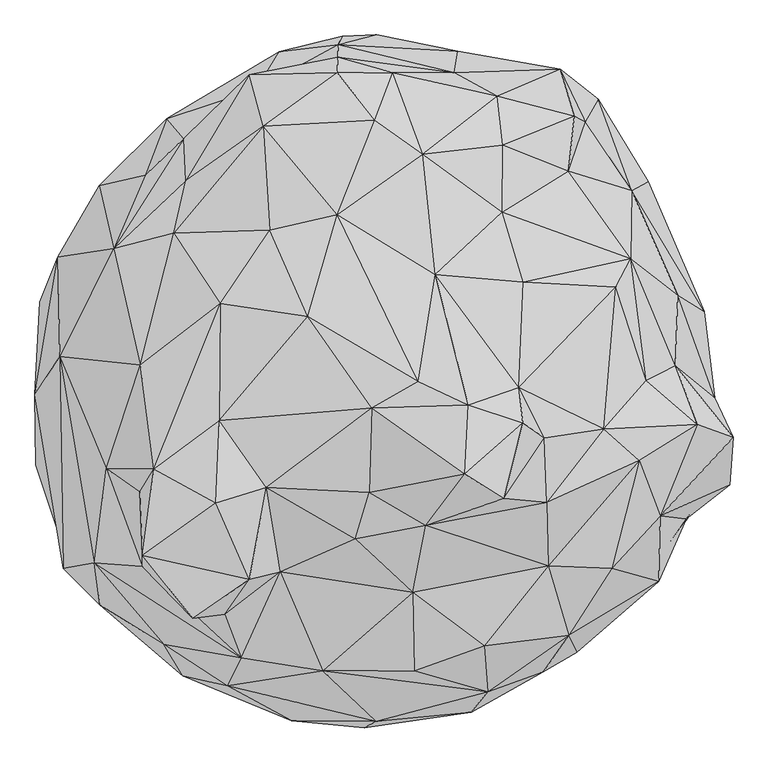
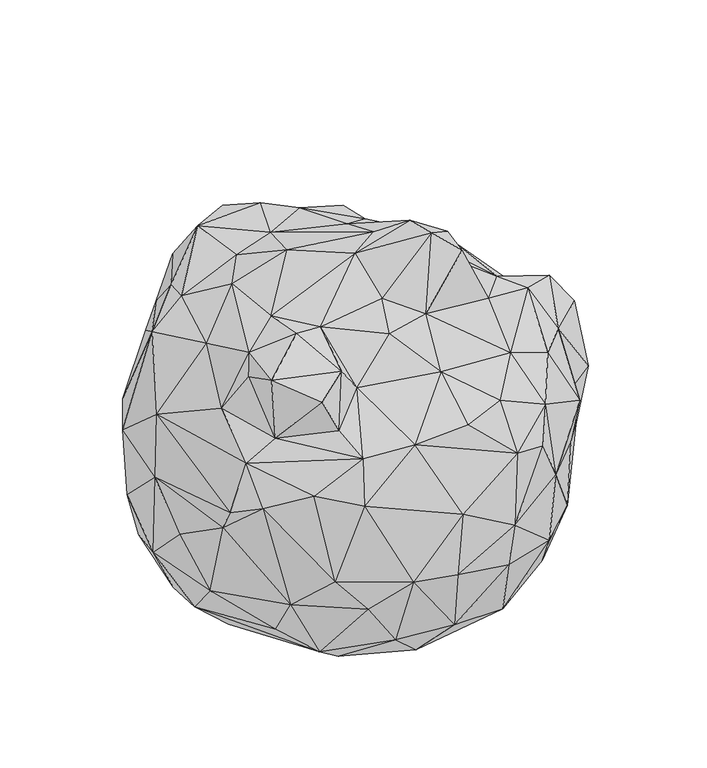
"""IFC4 building model written with IfcOpenShell, lengths in millimetres: geographic element geometry, Enscape AssetDefinition - Balm Bush : Enscape AssetDefinition - Balm Bush."""

from ifc_helpers import new_model, si_unit, origin, place, context, project, spatial, faceted_brep, source, transform, mapped, element, save


def geographic_element_0c4992a3(model_context):
    return source(origin(), model_context, "Body", "Brep", [
        faceted_brep([(-103.2708213, -28.0293748, 87.4930173), (344.7891772, -278.2743871, 87.4930173), (121.6873899, -550.0509143, 87.4930173), (312.7504289, -485.3526056, 87.4930173), (537.6026034, -111.360997, 122.5993857), (31.9034122, 85.9397277, 106.1995625), (483.1260741, 50.9389266, 117.1098575), (301.1055291, 161.4273489, 145.9610015), (-443.3142543, -218.7629938, 87.4930173), (-317.2000349, 6.4054755, 115.6498641), (-249.1122484, 226.8746197, 170.0659692), (94.6265161, 492.8733408, 281.8422019), (390.8439279, 296.7088819, 194.9024647), (518.7944174, 159.3808234, 184.8918945), (213.8534337, 460.0220025, 271.2863088), (425.7422388, 371.6726303, 251.8079579), (571.9012618, 134.5211118, 239.2979264), (542.7101851, 313.1485879, 468.670696), (379.9126446, 478.785485, 348.4884501), (445.0309277, 472.5328982, 451.1599839), (204.6146989, 556.6639304, 384.8151863), (510.0300908, 295.0474024, 639.8970485), (420.6644893, 429.313153, 672.0098257), (371.8031645, 530.8707952, 587.9698992), (650.9532332, 60.9223247, 488.0606234), (599.1232991, 92.9313004, 678.4057021), (508.5837245, 163.8322026, 850.7678509), (387.6252174, 333.4215879, 830.0852776), (398.8237381, 439.2881989, 790.2318835), (258.9309216, 253.3104122, 980.7052612), (260.5757713, 383.2080066, 949.7843385), (249.8932481, 478.099972, 884.2920661), (105.5608988, 366.3907349, 1005.6074858), (299.9075055, 118.1322485, 1021.5417147), (129.529193, 131.8538785, 1082.4985504), (47.3745875, 524.1814256, 883.228898), (12.6913656, 432.1153164, 1015.0117874), (-60.5219491, 248.3438998, 1047.7212667), (165.8966839, 524.0991116, 726.0334492), (-60.8999804, 523.4262943, 976.347208), (-59.549503, 553.7672043, 822.6758242), (-203.7955672, 420.4857647, 1017.4963474), (-230.6382805, 519.813776, 867.0647144), (-58.2677908, 578.6400437, 560.2571964), (-217.2929198, 491.6258454, 723.5295773), (173.101142, 566.0328269, 493.6592281), (15.6866908, 597.2068906, 333.124131), (-172.4721193, 564.8728609, 497.937113), (-50.7058874, 595.2501297, 355.7927608), (-390.5587792, 435.1478517, 548.4309793), (-357.5637639, 396.4434266, 820.2494979), (-343.9708948, 442.8346157, 317.6766038), (-372.1790016, 377.2239387, 247.8975356), (-237.534374, 397.4771798, 235.202238), (-479.7798395, 40.6567864, 115.3686419), (-473.3586311, 183.7875992, 165.3854996), (-502.1672845, 310.5277717, 338.2746279), (-566.3319826, 135.0266039, 225.5846113), (-637.4351978, 79.2079121, 425.8950949), (-601.8330455, 166.0981923, 590.0059342), (-521.4918852, 305.3177297, 587.0153904), (-540.3149724, -20.7758527, 124.5407835), (-645.5538869, -87.3326957, 326.2942135), (-485.3806496, -245.1593429, 111.8686944), (-579.3501139, -210.9759301, 185.881868), (-644.705832, -236.6477698, 479.1609049), (-646.4878321, -100.2570987, 598.8438129), (-594.2829251, -327.2557259, 317.9192841), (-464.2079473, -479.5174897, 227.9132307), (-352.8320491, -542.8832173, 148.7132013), (-455.3643167, -551.6501665, 355.2601039), (-271.4672089, -680.8964014, 353.6209464), (-170.5118865, -666.5790081, 202.0171285), (-285.6132984, -532.9383612, 102.6492417), (-591.2223458, -396.5682685, 580.4986358), (-521.1909413, -507.8048706, 690.6690598), (-591.9779539, -437.338084, 658.8361859), (-359.9068522, -645.4859972, 459.941864), (-148.5068798, -733.5099578, 437.9141033), (-396.7211545, -585.1808786, 738.4177446), (-273.3705044, -665.6394005, 709.523201), (-531.3819647, -427.161932, 807.2852492), (-598.5030532, -26.1186399, 759.1011524), (-508.1710815, -243.2810217, 880.5730343), (-438.2089078, -433.5936904, 865.5333519), (-246.6039956, -610.5666757, 833.7258697), (-88.9153406, -636.6765499, 844.8604345), (-170.9100604, -443.9971745, 956.7247629), (-278.5761952, -526.8044472, 893.348515), (15.429561, -733.9650393, 620.2399731), (231.3562334, -676.6399145, 726.3646126), (86.1066207, -484.4261408, 947.5157857), (88.954322, -636.2065077, 852.5073528), (224.4531512, -587.3548985, 861.1423969), (348.3548462, -432.8074157, 891.8932676), (111.0403612, -353.9148867, 1065.9604073), (-25.0923093, -380.2599907, 1058.245182), (387.8862858, -567.8147078, 777.7100205), (345.3665376, -310.0345433, 1011.2187862), (524.972558, -228.3504009, 935.6176853), (471.6629982, -437.2110367, 852.3084521), (339.2041624, -637.9516721, 691.8114424), (403.8853049, -599.8657942, 542.9646969), (562.8346205, -462.8386199, 667.9671407), (565.5180812, -335.6069624, 842.4683213), (543.7597036, -445.9197521, 519.1505551), (616.3422465, -341.9879079, 634.5546842), (636.9858384, -158.2563668, 898.1446028), (700.1382709, -275.8756578, 628.4427047), (706.8634629, -183.504194, 800.0890613), (632.6106191, -320.7831979, 469.7009921), (496.0250258, -506.0352087, 345.8895385), (597.0824957, -272.9684114, 188.5565519), (694.5405006, -162.4348462, 503.6548376), (666.3972139, -232.2055995, 314.5858049), (671.0886359, -106.4899862, 513.7941837), (594.8883295, -44.487454, 771.445632), (646.2192535, -58.1617877, 356.3556671), (511.9303465, -329.6220005, 145.768255), (406.0667455, -518.4435844, 190.7577068), (220.6544578, -612.2706532, 142.0440227), (380.6358278, -603.4296751, 321.4735389), (184.3929738, -707.8516483, 366.9776917), (11.4893802, -691.2187934, 205.8644295), (-75.4184127, -621.0311055, 106.2972471), (-157.6553881, -553.2301664, 87.4930173), (-7.666158, -746.5350628, 423.5813916), (199.0914494, -717.0593143, 507.3672533), (538.1067991, -72.7551207, 873.780787), (479.3207943, 108.591713, 904.4874907), (455.8838308, -167.5695628, 964.8863077), (291.7309999, -86.5770802, 1084.6892595), (340.4398561, -184.2843294, 1059.3217611), (193.4082955, -120.8397746, 1224.5627642), (298.9223301, -155.5948406, 1171.4243889), (261.9477212, -301.9075692, 1205.515027), (186.9322956, -254.3039024, 1264.8140192), (96.8473852, -75.4188523, 1191.7635202), (6.1829505, -126.3385117, 1176.9108772), (-117.9513335, 51.0777831, 1126.2102127), (-197.9201138, -280.4838419, 1082.4097395), (1.5169365, -289.9889052, 1118.8482046), (-289.5162702, -150.8416384, 1075.7974386), (-296.0483432, -310.9500408, 1113.3135557), (-231.2011719, -458.6890638, 1046.2844372), (-287.4570489, 75.9326741, 1049.9675274), (-416.0194695, -244.8229343, 1048.0645895), (-438.0349815, -411.9614661, 1058.3431721), (-340.1862383, -534.9345207, 1020.7331181), (-443.3633387, -289.6481156, 998.6404777), (-442.3177242, -43.1812182, 965.6659961), (-493.9005673, 182.8322262, 887.7061009), (-377.6369989, 212.3513818, 956.7554593), (-432.6637387, 325.3379762, 786.0648036), (-353.9012969, 314.6484196, 926.5795946), (-191.2693381, 219.0464139, 1032.8195095)], [[[0, 1, 2]], [[3, 1, 4]], [[5, 1, 0]], [[3, 2, 1]], [[1, 6, 4]], [[7, 6, 1]], [[1, 5, 7]], [[8, 9, 0]], [[8, 0, 2]], [[5, 0, 9]], [[10, 7, 5]], [[9, 10, 5]], [[10, 11, 7]], [[12, 7, 11]], [[12, 6, 7]], [[6, 12, 13]], [[6, 13, 4]], [[14, 15, 12]], [[12, 15, 13]], [[14, 12, 11]], [[15, 16, 13]], [[13, 16, 4]], [[15, 17, 16]], [[18, 15, 14]], [[15, 18, 19]], [[17, 15, 19]], [[11, 20, 14]], [[14, 20, 18]], [[18, 20, 19]], [[21, 17, 19]], [[22, 19, 23]], [[19, 22, 21]], [[20, 23, 19]], [[21, 24, 17]], [[16, 17, 24]], [[21, 25, 24]], [[26, 21, 27]], [[25, 21, 26]], [[27, 21, 22]], [[23, 28, 22]], [[22, 28, 27]], [[29, 27, 30]], [[27, 29, 26]], [[30, 27, 28]], [[31, 30, 28]], [[31, 28, 23]], [[32, 30, 31]], [[32, 29, 30]], [[29, 33, 26]], [[33, 29, 34]], [[34, 29, 32]], [[35, 32, 31]], [[35, 36, 32]], [[32, 36, 37]], [[32, 37, 34]], [[38, 35, 31]], [[31, 23, 38]], [[39, 35, 40]], [[39, 36, 35]], [[38, 40, 35]], [[36, 41, 37]], [[41, 36, 39]], [[42, 39, 40]], [[41, 39, 42]], [[43, 40, 38]], [[40, 43, 44]], [[40, 44, 42]], [[45, 38, 23]], [[38, 45, 43]], [[45, 23, 20]], [[43, 45, 46]], [[46, 45, 20]], [[43, 47, 44]], [[48, 47, 43]], [[46, 48, 43]], [[47, 49, 44]], [[50, 42, 44]], [[49, 50, 44]], [[48, 51, 47]], [[47, 51, 49]], [[51, 48, 52]], [[52, 48, 53]], [[46, 53, 48]], [[46, 11, 53]], [[20, 11, 46]], [[11, 10, 53]], [[53, 54, 55]], [[52, 53, 55]], [[53, 10, 54]], [[51, 52, 56]], [[57, 56, 52]], [[57, 52, 55]], [[51, 56, 49]], [[56, 58, 59]], [[57, 58, 56]], [[56, 60, 49]], [[60, 56, 59]], [[61, 57, 55]], [[57, 62, 58]], [[61, 62, 57]], [[54, 61, 55]], [[61, 63, 64]], [[64, 62, 61]], [[61, 54, 8]], [[61, 8, 63]], [[62, 65, 66]], [[62, 66, 58]], [[64, 67, 62]], [[62, 67, 65]], [[67, 64, 68]], [[68, 64, 69]], [[64, 63, 69]], [[63, 8, 69]], [[69, 70, 68]], [[71, 70, 69]], [[72, 71, 69]], [[69, 73, 72]], [[69, 8, 73]], [[68, 70, 67]], [[67, 70, 74]], [[67, 74, 65]], [[74, 66, 65]], [[74, 70, 75]], [[74, 76, 66]], [[75, 76, 74]], [[75, 70, 77]], [[70, 71, 77]], [[71, 78, 77]], [[72, 78, 71]], [[79, 77, 80]], [[78, 80, 77]], [[79, 75, 77]], [[79, 81, 75]], [[76, 75, 81]], [[66, 76, 82]], [[81, 82, 76]], [[83, 81, 84]], [[81, 85, 84]], [[81, 83, 82]], [[81, 79, 85]], [[79, 80, 85]], [[86, 87, 85]], [[80, 86, 85]], [[84, 85, 88]], [[85, 87, 88]], [[86, 89, 90]], [[91, 87, 86]], [[86, 92, 91]], [[80, 89, 86]], [[92, 86, 90]], [[91, 92, 93]], [[93, 92, 90]], [[94, 91, 93]], [[91, 94, 95]], [[96, 87, 91]], [[96, 91, 95]], [[93, 97, 94]], [[97, 93, 90]], [[94, 98, 95]], [[99, 98, 94]], [[94, 97, 100]], [[100, 99, 94]], [[97, 101, 102]], [[90, 101, 97]], [[102, 103, 97]], [[97, 103, 100]], [[104, 99, 100]], [[103, 104, 100]], [[105, 103, 102]], [[103, 105, 106]], [[103, 106, 104]], [[107, 99, 104]], [[108, 104, 106]], [[104, 108, 109]], [[104, 109, 107]], [[106, 105, 110]], [[108, 106, 110]], [[111, 110, 105]], [[105, 102, 111]], [[111, 112, 110]], [[113, 108, 110]], [[114, 113, 110]], [[110, 112, 114]], [[113, 109, 108]], [[115, 116, 109]], [[107, 109, 116]], [[109, 113, 115]], [[117, 113, 114]], [[117, 115, 113]], [[117, 114, 16]], [[114, 112, 4]], [[16, 114, 4]], [[118, 4, 112]], [[111, 118, 112]], [[118, 3, 4]], [[119, 118, 111]], [[3, 118, 119]], [[120, 3, 119]], [[2, 3, 120]], [[119, 121, 120]], [[111, 121, 119]], [[122, 123, 120]], [[124, 2, 120]], [[121, 122, 120]], [[123, 124, 120]], [[125, 2, 124]], [[125, 8, 2]], [[73, 125, 124]], [[72, 124, 123]], [[72, 73, 124]], [[125, 73, 8]], [[54, 9, 8]], [[10, 9, 54]], [[72, 123, 78]], [[123, 126, 78]], [[80, 78, 89]], [[89, 78, 126]], [[123, 122, 126]], [[122, 127, 126]], [[127, 89, 126]], [[90, 89, 127]], [[102, 127, 121]], [[101, 127, 102]], [[90, 127, 101]], [[121, 127, 122]], [[121, 111, 102]], [[117, 16, 24]], [[25, 115, 24]], [[115, 117, 24]], [[115, 25, 116]], [[116, 25, 26]], [[26, 128, 116]], [[128, 107, 116]], [[128, 26, 129]], [[26, 33, 129]], [[128, 130, 107]], [[129, 130, 128]], [[130, 99, 107]], [[130, 131, 132]], [[131, 130, 129]], [[132, 98, 130]], [[130, 98, 99]], [[33, 131, 129]], [[34, 131, 33]], [[34, 133, 131]], [[134, 132, 131]], [[133, 134, 131]], [[98, 132, 135]], [[134, 135, 132]], [[95, 98, 135]], [[135, 136, 95]], [[135, 134, 136]], [[136, 134, 133]], [[133, 34, 137]], [[138, 133, 137]], [[138, 136, 133]], [[37, 137, 34]], [[139, 138, 137]], [[137, 37, 139]], [[140, 141, 138]], [[141, 136, 138]], [[138, 139, 142]], [[138, 142, 140]], [[136, 141, 95]], [[141, 96, 95]], [[141, 140, 96]], [[140, 142, 143]], [[140, 87, 96]], [[144, 87, 140]], [[144, 140, 143]], [[145, 146, 142]], [[145, 142, 139]], [[142, 146, 143]], [[143, 147, 144]], [[143, 146, 147]], [[87, 144, 88]], [[88, 144, 148]], [[144, 147, 148]], [[84, 148, 147]], [[149, 84, 147]], [[147, 146, 149]], [[84, 88, 148]], [[84, 149, 83]], [[149, 146, 83]], [[145, 150, 146]], [[146, 150, 83]], [[83, 150, 82]], [[151, 82, 150]], [[145, 152, 150]], [[150, 152, 151]], [[59, 82, 151]], [[66, 82, 59]], [[59, 151, 60]], [[66, 59, 58]], [[153, 49, 60]], [[151, 153, 60]], [[49, 153, 50]], [[151, 50, 153]], [[50, 154, 42]], [[151, 154, 50]], [[154, 152, 41]], [[154, 41, 42]], [[152, 154, 151]], [[155, 41, 152]], [[37, 41, 155]], [[139, 37, 155]], [[139, 155, 145]], [[155, 152, 145]]]),
    ])


if __name__ == "__main__":
    model = new_model("IFC4")
    model_context = context("Model", 3, world=origin())
    ifc_project = project(units=[si_unit("LENGTHUNIT", "METRE", prefix="MILLI")], contexts=[model_context])
    site = spatial("IfcSite", under=ifc_project)
    building = spatial("IfcBuilding", under=site)
    placement = place(None, origin())
    geographic_element_shape = geographic_element_0c4992a3(model_context)
    element("IfcGeographicElement", 1, ObjectType="Enscape AssetDefinition - Balm Bush : Enscape AssetDefinition - Balm Bush", at=placement, inside=building, context=model_context, shape_type="MappedRepresentation", body=[
        mapped(geographic_element_shape, transform((0.0, 0.0, 0.0), x_axis=(1.0, 0.0, 0.0), y_axis=(0.0, 1.0, 0.0), z_axis=(0.0, 0.0, 1.0))),
    ])
    save(model, "model.ifc")
